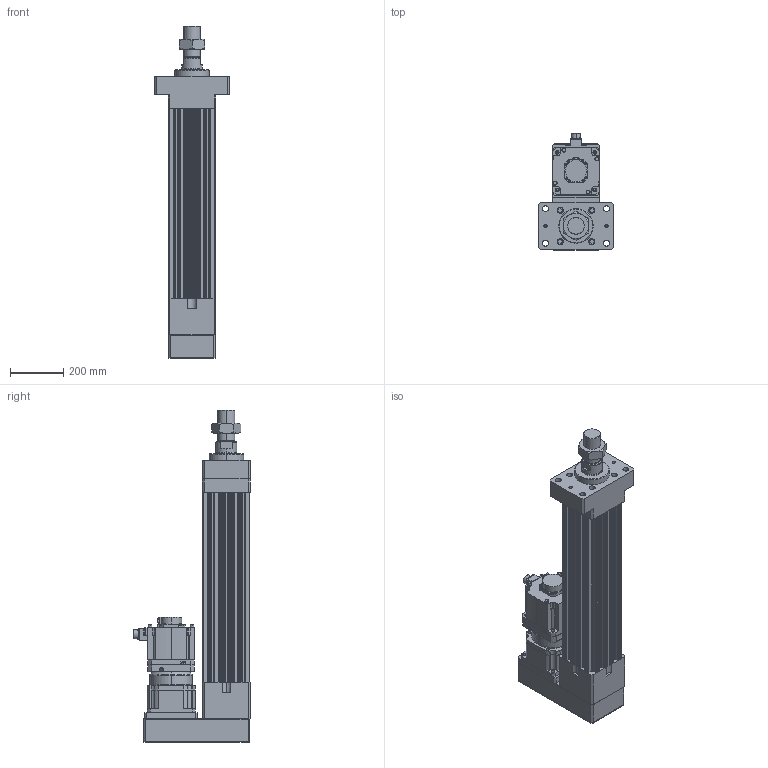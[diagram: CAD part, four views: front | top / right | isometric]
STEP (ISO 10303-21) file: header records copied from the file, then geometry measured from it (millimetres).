
FILE_DESCRIPTION (( 'STEP AP203' ), '1' );
FILE_NAME ('HES180HS-P400-W050G00-M-FMA.STEP', '2023-02-01T08:12:58', ( 'tms' ), ( '' ), 'SwSTEP 2.0', 'SolidWorks 2013', '' );
FILE_SCHEMA (( 'CONFIG_CONTROL_DESIGN' ));
Length unit declared in the file: millimetre
Products named in the file (9): AB1801; HES180 ROD M ST400; HG-SR502; P1301600001; HES180HS-P400-W050G00-M-FMA; AB180-003[HG-SR702B]; M64X2.0P; P0403600401; HES180-P400-G180-FMA
Assembly tree (8 placements, depth 3):
  HES180HS-P400-W050G00-M-FMA
    HES180-P400-G180-FMA
    HES180 ROD M ST400
    M64X2.0P
    AB180-003[HG-SR702B]
      AB1801
      P1301600001
      P0403600401
    HG-SR502
Bounding box: 280 x 438.85 x 1252 mm (x, y, z)
Volume: 29028385.8 mm3; surface area: 2461749 mm2
Topology: 4 solids, 19 shells, 1431 faces, 3715 edges, 2410 vertices
Faces by surface type: cylinder 663, plane 555, cone 146, bspline 63, torus 4
Entity records: 52578 total; most frequent: CARTESIAN_POINT 15982, DIRECTION 7693, ORIENTED_EDGE 7330, EDGE_CURVE 3689, AXIS2_PLACEMENT_3D 2901, VERTEX_POINT 2410, VECTOR 1891, LINE 1891
